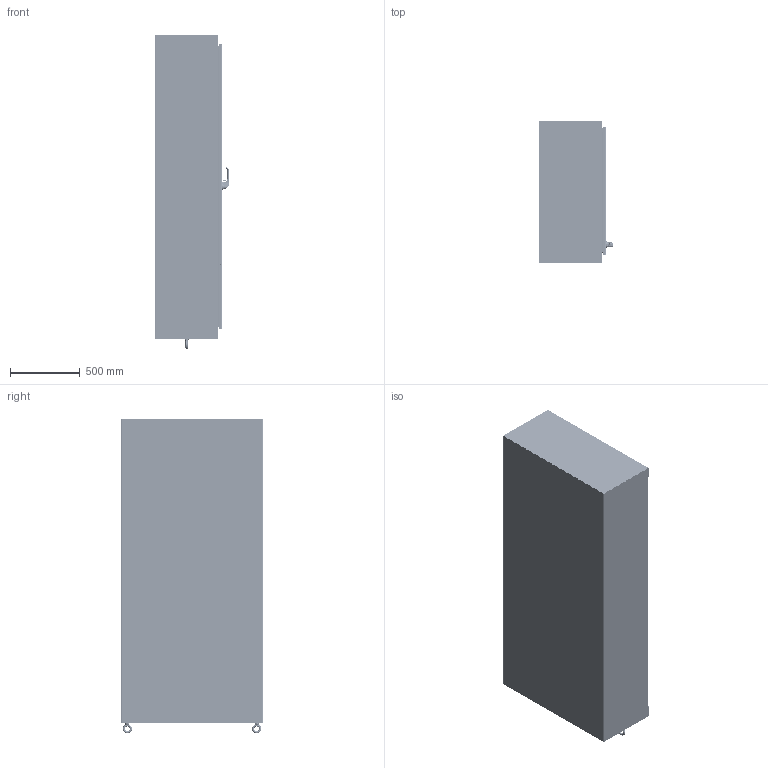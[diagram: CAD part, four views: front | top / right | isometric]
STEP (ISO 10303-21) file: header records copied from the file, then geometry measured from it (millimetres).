
FILE_DESCRIPTION((''),'2;1');
FILE_NAME('MODEL-461_ASM','2026-03-12T09:43:20',('joshi'),('SAGINAW CONTROL & ENGINEERING'),'CREO PARAMETRIC BY PTC INC, 2021284','CREO PARAMETRIC BY PTC INC, 2021284','');
FILE_SCHEMA(('AUTOMOTIVE_DESIGN { 1 0 10303 214 1 1 1 1 }'));
Length unit declared in the file: inch
Products named in the file (67): MODEL-461-L-SD; MODEL-461-TP; MODEL-461-R-SD; MODEL-461-BTM; MODEL-461-DR; 100837; 111267; 100882; 100953_SCREW_MTG; 100953_PADLOCK_CATCH; 100953_SCREW_LARGE; 100953_INSERT_SHAFT; 100953_INSERT_PCH; 100953_GASKET; 100953_O-RING; 100953_BASE; 100953_SPRING; 100953_HANDLE; 100953_CAM_SHAFT; 100953_HANDLE_ASM; 100953_CAM_ADAPTER; 100953_EARTH_NUT; 100953_FLANGE_NUT; 100953_CAM_NUT; 100953_CP_INSERT; 100953_SPRING_CAM; 100953_TORSION_SPRING; 100953_SCREW_INSERT; 100953_ASM; 102237; 100030; 102237_ASM; MODEL-461-ROD-UPR; 128146; 128145; 128144; 102482; MODEL-461-ROD-UPR_ASM; 128143; 112504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
Assembly tree (131 placements, depth 5):
  MODEL-461_ASM
    MODEL-461-L-SD
    MODEL-461-TP
    MODEL-461-R-SD
    MODEL-461-BTM
    MODEL-461-DOOR-ASSY_ASM
      MODEL-461-DR
      100837  x7
      111267
      100882  x12
      100953_ASM
        100953_SCREW_MTG
        100953_PADLOCK_CATCH
        100953_SCREW_LARGE  x2
        100953_INSERT_SHAFT
        100953_INSERT_PCH
        100953_GASKET
        100953_O-RING
        100953_BASE
        100953_SPRING
        100953_HANDLE_ASM
          100953_HANDLE
          100953_CAM_SHAFT
        100953_CAM_ADAPTER
        100953_EARTH_NUT
        100953_FLANGE_NUT
        100953_CAM_NUT
        100953_CP_INSERT
        100953_SPRING_CAM
        100953_TORSION_SPRING
        100953_SCREW_INSERT
      102237_ASM
        102237
        100030  x2
      MODEL-461-ROD-UPR_ASM
        MODEL-461-ROD-UPR
        128146
        128145
        128144
        102482  x2
      128143  x2
      112504  x2
      MODEL-461-ROD-LWR_ASM
        MODEL-461-ROD-LWR
        128146
        128145
        128144
        102482  x2
      MODEL-461-PR-GSKT
      128258_ASM  x4
        128258
      126395  x4
      102483  x4
      101383_ASM  x4
        101383
        101383-STUD
      101221  x4
    MODEL-461-BCK
    100837  x4
    103357
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Bounding box: 535.27 x 1022.35 x 2259.2 mm (x, y, z)
Volume: 27951734.8 mm3; surface area: 20180875.5 mm2
Topology: 135 solids, 135 shells, 12340 faces, 31418 edges, 19342 vertices
Faces by surface type: plane 4164, cylinder 3166, bspline 3010, torus 940, cone 700, sphere 330, extrusion 30
Entity records: 357940 total; most frequent: CARTESIAN_POINT 150262, ORIENTED_EDGE 32266, DIRECTION 28986, PRESENTATION_STYLE_ASSIGNMENT 16167, STYLED_ITEM 16162, EDGE_CURVE 16133, CURVE_STYLE 16085, AXIS2_PLACEMENT_3D 10833
